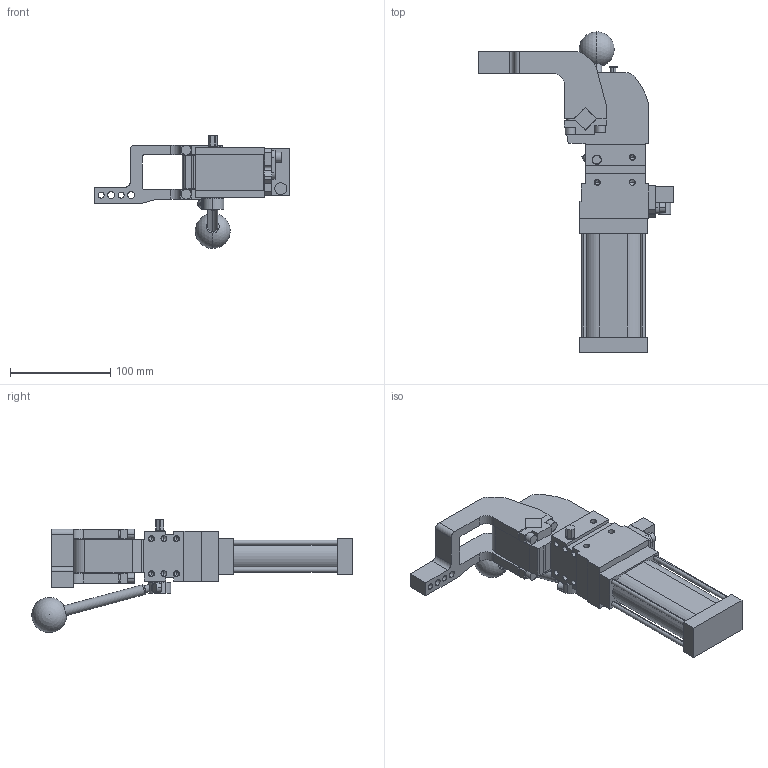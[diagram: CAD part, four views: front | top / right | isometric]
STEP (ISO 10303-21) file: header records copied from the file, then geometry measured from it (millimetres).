
FILE_DESCRIPTION (( 'STEP AP214' ), '1' );
FILE_NAME ('cplm40lbv3di1g_103.STEP', '2021-05-25T13:50:45', ( '' ), ( '' ), 'SwSTEP 2.0', 'SolidWorks 2021', '' );
FILE_SCHEMA (( 'AUTOMOTIVE_DESIGN' ));
Length unit declared in the file: millimetre
Products named in the file (6): leva_v3d_cpl40; comando_manuale_cplm_40; meccanica_cplm40; cplm40lbv3di1g_103; blocchetto_VEP_0_cpl40; piastra_blocchetto_cpl40
Assembly tree (5 placements, depth 2):
  cplm40lbv3di1g_103
    meccanica_cplm40
    leva_v3d_cpl40
    blocchetto_VEP_0_cpl40
    piastra_blocchetto_cpl40
    comando_manuale_cplm_40
Bounding box: 195.5 x 319.99 x 112.66 mm (x, y, z)
Volume: 826523.5 mm3; surface area: 131070.1 mm2
Topology: 6 solids, 6 shells, 471 faces, 1213 edges, 765 vertices
Faces by surface type: plane 261, cylinder 162, cone 46, sphere 2
Entity records: 15653 total; most frequent: CARTESIAN_POINT 2525, DIRECTION 2500, ORIENTED_EDGE 2332, EDGE_CURVE 1166, AXIS2_PLACEMENT_3D 859, LINE 782, VECTOR 782, VERTEX_POINT 762
